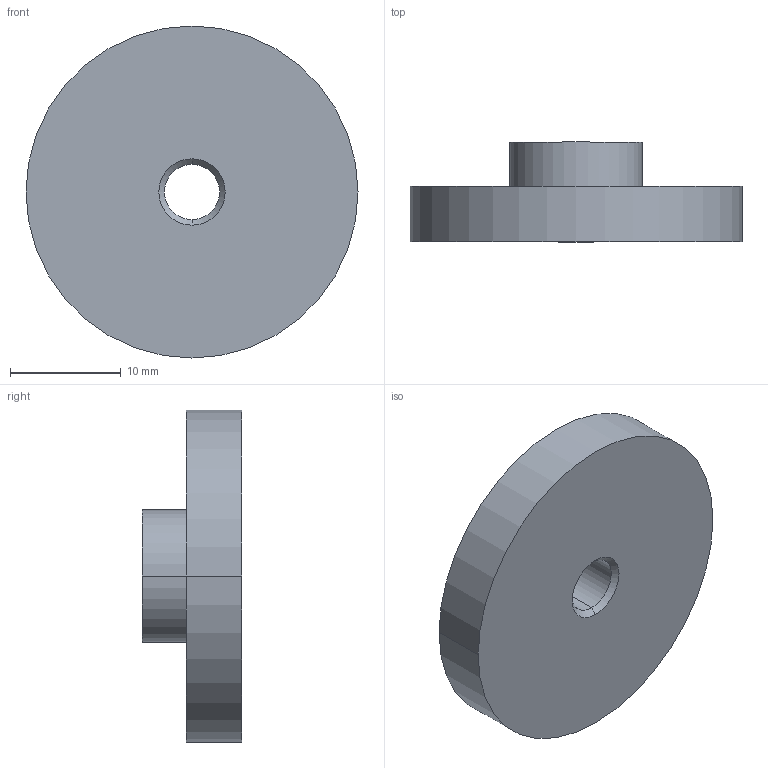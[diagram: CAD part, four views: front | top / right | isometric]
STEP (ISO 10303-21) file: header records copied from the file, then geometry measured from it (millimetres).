
FILE_DESCRIPTION (( 'STEP AP203' ), '1' );
FILE_NAME ('451230.STEP', '2018-10-15T11:33:31', ( '' ), ( '' ), 'SwSTEP 2.0', 'SolidWorks 2015', '' );
FILE_SCHEMA (( 'CONFIG_CONTROL_DESIGN' ));
Length unit declared in the file: millimetre
Products named in the file (1): 451230
Bounding box: 30 x 9 x 30 mm (x, y, z)
Volume: 3805.8 mm3; surface area: 2129.3 mm2
Topology: 1 solids, 1 shells, 13 faces, 26 edges, 16 vertices
Faces by surface type: cylinder 6, cone 4, plane 3
Entity records: 425 total; most frequent: DIRECTION 70, CARTESIAN_POINT 56, ORIENTED_EDGE 52, AXIS2_PLACEMENT_3D 30, EDGE_CURVE 26, VERTEX_POINT 16, EDGE_LOOP 16, CIRCLE 16
